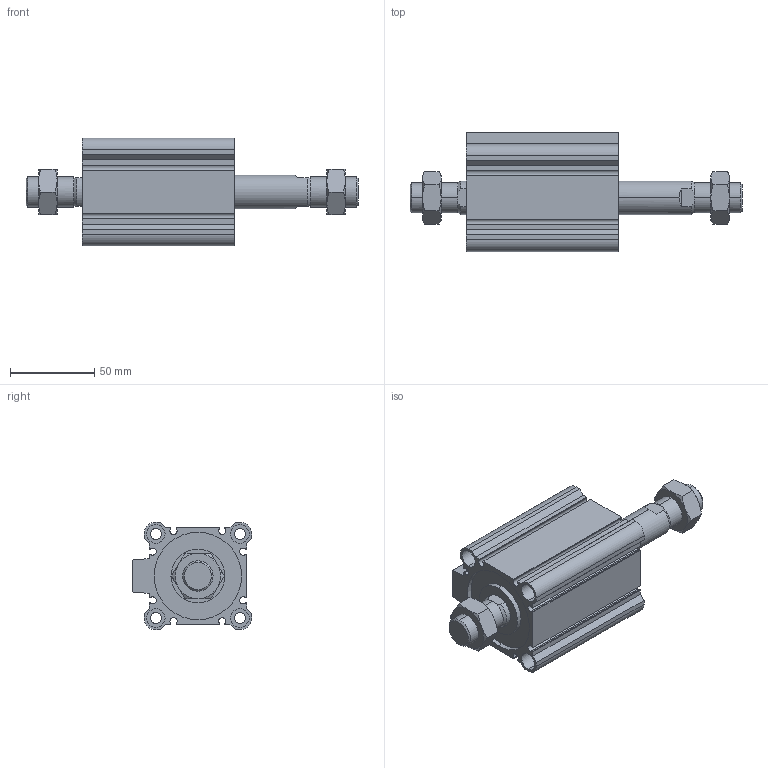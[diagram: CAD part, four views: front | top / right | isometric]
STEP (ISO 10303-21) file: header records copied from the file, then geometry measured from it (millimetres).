
FILE_DESCRIPTION (( 'STEP AP203' ), '1' );
FILE_NAME ('CCMB50-40M-P.STEP', '2020-08-10T11:45:48', ( '' ), ( '' ), 'SwSTEP 2.0', 'SolidWorks 2019', '' );
FILE_SCHEMA (( 'CONFIG_CONTROL_DESIGN' ));
Length unit declared in the file: millimetre
Products named in the file (1): CCMB50-40M-P
Bounding box: 197.5 x 71 x 64 mm (x, y, z)
Volume: 276106.1 mm3; surface area: 86594 mm2
Topology: 4 solids, 4 shells, 220 faces, 534 edges, 340 vertices
Faces by surface type: plane 98, cylinder 78, cone 44
Entity records: 7173 total; most frequent: CARTESIAN_POINT 1867, DIRECTION 1116, ORIENTED_EDGE 1068, EDGE_CURVE 534, AXIS2_PLACEMENT_3D 425, VERTEX_POINT 340, LINE 266, VECTOR 266
